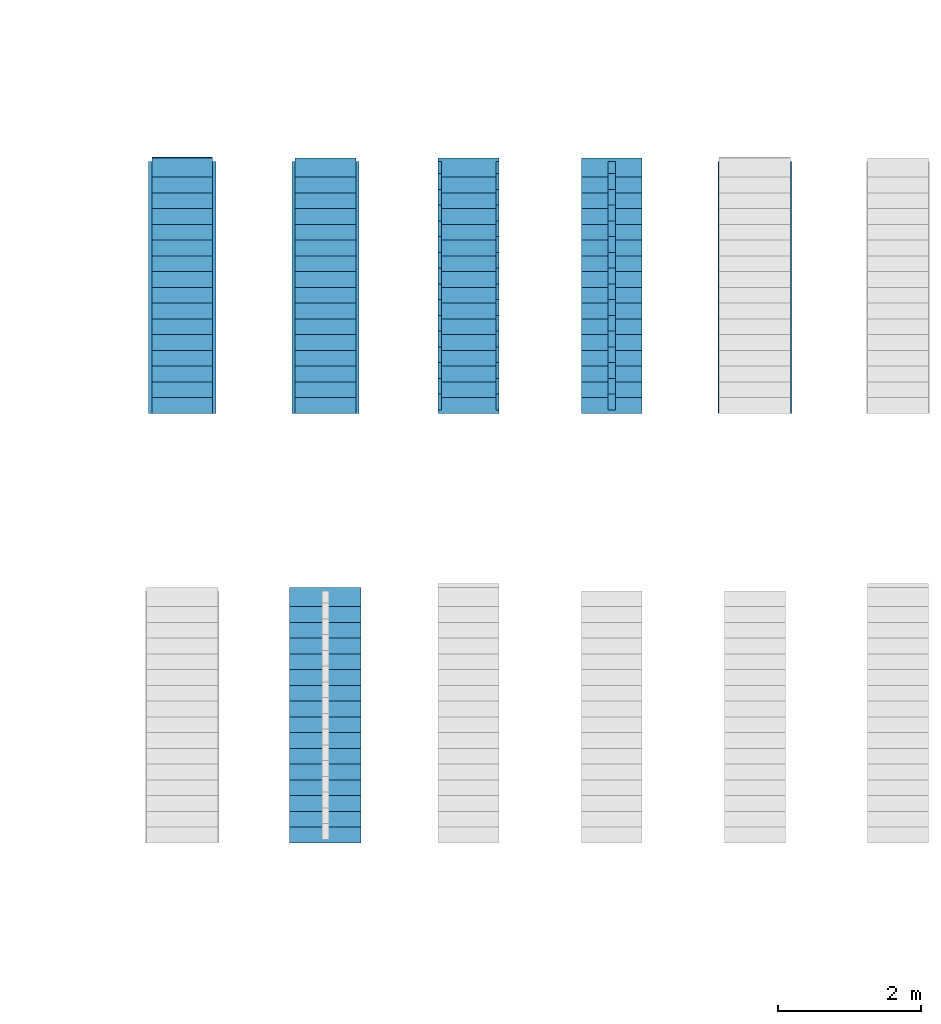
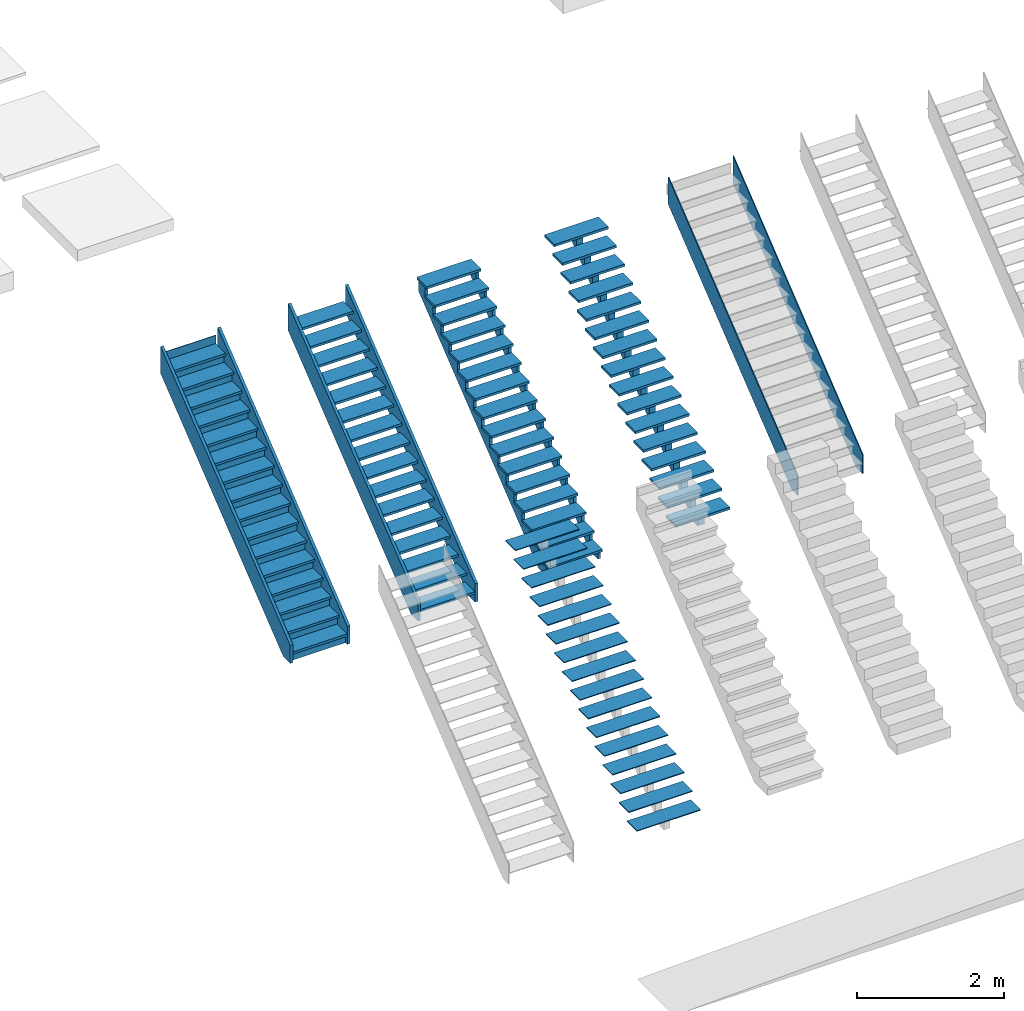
# One storey, part 4 of 11: 10 stairs, 10 elements without a shape of their own.
"""IFC2X3 building model written with IfcOpenShell, lengths in millimetres."""

from ifc_helpers import new_model, entity, si_unit, converted_unit, derived_unit, direction, frame, frame_2d, origin, origin_2d_with_axis, place, context, subcontext, project, spatial, polyline, rectangle, outline, extrude, material, element, aggregate, save


model = new_model("IFC2X3")

# Units and contexts
model_context = context("Model", 3, precision=0.01, world=origin(), true_north=direction((6.12303176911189e-17, 1.0)))
body_context = subcontext(model_context, "Body", "Model", "MODEL_VIEW")
ifc_project = project(units=[si_unit("LENGTHUNIT", "METRE", prefix="MILLI"), si_unit("AREAUNIT", "SQUARE_METRE"), si_unit("VOLUMEUNIT", "CUBIC_METRE"), converted_unit("PLANEANGLEUNIT", "DEGREE", entity("IfcRatioMeasure", 0.0174532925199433), si_unit("PLANEANGLEUNIT", "RADIAN"), dimensions=[0, 0, 0, 0, 0, 0, 0]), si_unit("MASSUNIT", "GRAM", prefix="KILO"), si_unit("TIMEUNIT", "SECOND"), si_unit("FREQUENCYUNIT", "HERTZ"), si_unit("THERMODYNAMICTEMPERATUREUNIT", "KELVIN"), derived_unit("THERMALTRANSMITTANCEUNIT", [(si_unit("MASSUNIT", "GRAM", prefix="KILO"), 1), (si_unit("THERMODYNAMICTEMPERATUREUNIT", "KELVIN"), -1), (si_unit("TIMEUNIT", "SECOND"), -3)]), derived_unit("VOLUMETRICFLOWRATEUNIT", [(si_unit("LENGTHUNIT", "METRE"), 3), (si_unit("TIMEUNIT", "SECOND"), -1)]), si_unit("ELECTRICCURRENTUNIT", "AMPERE"), si_unit("ELECTRICVOLTAGEUNIT", "VOLT"), si_unit("POWERUNIT", "WATT")], contexts=[model_context])

# Site, building, storey
site_placement = place(None, origin())
site = spatial("IfcSite", under=ifc_project, at=site_placement, Name="Surface:5707", CompositionType="ELEMENT")
building_placement = place(site_placement, origin())
building = spatial("IfcBuilding", under=site, at=building_placement, CompositionType="ELEMENT")
storey_placement = place(building_placement, origin())
storey = spatial("IfcBuildingStorey", under=building, at=storey_placement, Name="00_begane grond", CompositionType="ELEMENT", Elevation=0.0)

# Stairs
stair_1_placement = place(storey_placement, frame((17304.8089026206, -25324.6322235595, 0.0)))
stair_1 = element("IfcStair", 1, at=stair_1_placement, inside=storey, Name="Assembled Stair:Stair:68679 Stringer 1:Stair:68679 Stringer 1 : Assembled Stair:Stair:68679 Stringer 1:2460", ObjectType="Assembled Stair:Stair:68679 Stringer 1:Assembled Stair:Stair:68679 Stringer 1:2458", ShapeType="NOTDEFINED")
ifc_material_1 = material(Name="24_hout_vuren_generiek")
stair_2_placement = place(stair_1_placement, origin())
stair_2 = element("IfcStair", 2, at=stair_2_placement, material=ifc_material_1, Name="Assembled Stair:Stair:68679 Stringer 1:Stair:68679 Stringer 1 : Assembled Stair:Stair:68679 Stringer 1:2460", ObjectType="Assembled Stair:Stair:68679 Stringer 1:Assembled Stair:Stair:68679 Stringer 1:2458", ShapeType="NOTDEFINED", context=body_context, shape_type="SweptSolid", body=[
    extrude(outline(polyline([(-1741.72404107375, -163.748976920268), (2527.49764169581, -163.748976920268), (2808.24630479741, 186.251023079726), (-1704.26057487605, 186.251023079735), (-1889.75933054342, -45.0040923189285), (-1741.72404107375, -163.748976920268)])), frame((895.0, 1445.95512853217, 1217.55059934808), z_axis=(1.0, 0.0, 0.0), x_axis=(0.0, 0.780054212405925, 0.625711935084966)), (0.0, 0.0, 1.0), 45.0000000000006),
    extrude(outline(polyline([(-1741.72404107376, -163.748976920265), (2527.49764169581, -163.748976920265), (2808.24630479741, 186.251023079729), (-1704.26057487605, 186.251023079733), (-1889.75933054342, -45.0040923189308), (-1741.72404107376, -163.748976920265)])), frame((0.0, 1445.95512853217, 1217.55059934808), z_axis=(1.0, 0.0, 0.0), x_axis=(0.0, 0.780054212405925, 0.625711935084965)), (0.0, 0.0, 1.0), 45.0000000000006),
])
aggregate(stair_1, [stair_2])

stair_3_placement = place(storey_placement, frame((17349.8089026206, -25324.6322235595, 0.0)))
stair_3 = element("IfcStair", 3, at=stair_3_placement, inside=storey, Name="Assembled Stair:Stair:68679 Run 1:Stair:68679 Run 1 : Assembled Stair:Stair:68679 Run 1:2495", ObjectType="Assembled Stair:Stair:68679 Run 1:Assembled Stair:Stair:68679 Run 1:2493", ShapeType="NOTDEFINED")
stair_4_placement = place(stair_3_placement, origin())
stair_4 = element("IfcStair", 4, at=stair_4_placement, material=ifc_material_1, Name="Assembled Stair:Stair:68679 Run 1:Stair:68679 Run 1 : Assembled Stair:Stair:68679 Run 1:2495", ObjectType="Assembled Stair:Stair:68679 Run 1:Assembled Stair:Stair:68679 Run 1:2493", ShapeType="NOTDEFINED", context=body_context, shape_type="SweptSolid", body=[
    extrude(rectangle(XDim=9.99999999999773, YDim=850.0, at=frame_2d((0.0, 1.08002495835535e-12), x_axis=(1.0, 0.0))), frame((425.0, 3575.0, 2823.5294117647), z_axis=(0.0, 0.0, 1.0), x_axis=(0.0, -1.0, 0.0)), (0.0, 0.0, 1.0), 136.470588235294),
    extrude(rectangle(XDim=10.0000000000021, YDim=850.0, at=frame_2d((2.16582307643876e-12, 1.08002495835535e-12), x_axis=(1.0, 0.0))), frame((425.0, 3355.0, 2647.05882352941), z_axis=(0.0, 0.0, 1.0), x_axis=(0.0, -1.0, 0.0)), (0.0, 0.0, 1.0), 136.470588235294),
    extrude(rectangle(XDim=850.0, YDim=279.999999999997, at=frame_2d((1.08002495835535e-12, 0.0), x_axis=(1.0, 0.0))), frame((425.0, 3440.0, 2783.5294117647)), (0.0, 0.0, 1.0), 40.0000000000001),
    extrude(rectangle(XDim=9.99999999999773, YDim=850.0, at=frame_2d((0.0, 1.08002495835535e-12), x_axis=(1.0, 0.0))), frame((425.0, 3135.0, 2470.58823529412), z_axis=(0.0, 0.0, 1.0), x_axis=(0.0, -1.0, 0.0)), (0.0, 0.0, 1.0), 136.470588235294),
    extrude(rectangle(XDim=850.0, YDim=279.999999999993, at=frame_2d((1.08002495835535e-12, 2.1600499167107e-12), x_axis=(1.0, 0.0))), frame((425.0, 3220.0, 2607.05882352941)), (0.0, 0.0, 1.0), 40.0000000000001),
    extrude(rectangle(XDim=10.0000000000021, YDim=850.0, at=frame_2d((-2.16582307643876e-12, 1.08002495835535e-12), x_axis=(1.0, 0.0))), frame((425.0, 2915.0, 2294.11764705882), z_axis=(0.0, 0.0, 1.0), x_axis=(0.0, -1.0, 0.0)), (0.0, 0.0, 1.0), 136.470588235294),
    extrude(rectangle(XDim=850.0, YDim=280.000000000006, at=frame_2d((1.08002495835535e-12, 0.0), x_axis=(1.0, 0.0))), frame((425.0, 3000.0, 2430.58823529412)), (0.0, 0.0, 1.0), 39.9999999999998),
    extrude(rectangle(XDim=9.99999999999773, YDim=850.0, at=frame_2d((0.0, 1.08002495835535e-12), x_axis=(1.0, 0.0))), frame((425.0, 2695.0, 2117.64705882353), z_axis=(0.0, 0.0, 1.0), x_axis=(0.0, -1.0, 0.0)), (0.0, 0.0, 1.0), 136.470588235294),
    extrude(rectangle(XDim=850.0, YDim=280.000000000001, at=frame_2d((1.08002495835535e-12, -2.1600499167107e-12), x_axis=(1.0, 0.0))), frame((425.0, 2780.0, 2254.11764705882)), (0.0, 0.0, 1.0), 40.0000000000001),
    extrude(rectangle(XDim=10.0000000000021, YDim=850.0, at=frame_2d((2.16582307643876e-12, 1.08002495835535e-12), x_axis=(1.0, 0.0))), frame((425.0, 2475.0, 1941.17647058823), z_axis=(0.0, 0.0, 1.0), x_axis=(0.0, -1.0, 0.0)), (0.0, 0.0, 1.0), 136.470588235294),
    extrude(rectangle(XDim=850.0, YDim=280.000000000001, at=frame_2d((1.08002495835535e-12, -2.1600499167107e-12), x_axis=(1.0, 0.0))), frame((425.0, 2560.0, 2077.64705882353)), (0.0, 0.0, 1.0), 40.0000000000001),
    extrude(rectangle(XDim=10.0000000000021, YDim=850.0, at=frame_2d((2.16582307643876e-12, 1.08002495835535e-12), x_axis=(1.0, 0.0))), frame((425.0, 2255.0, 1764.70588235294), z_axis=(0.0, 0.0, 1.0), x_axis=(0.0, -1.0, 0.0)), (0.0, 0.0, 1.0), 136.470588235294),
    extrude(rectangle(XDim=850.0, YDim=280.000000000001, at=frame_2d((1.08002495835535e-12, 2.1600499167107e-12), x_axis=(1.0, 0.0))), frame((425.0, 2340.0, 1901.17647058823)), (0.0, 0.0, 1.0), 40.0000000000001),
    extrude(rectangle(XDim=9.99999999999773, YDim=850.0, at=frame_2d((0.0, 1.08002495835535e-12), x_axis=(1.0, 0.0))), frame((425.0, 2035.0, 1588.23529411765), z_axis=(0.0, 0.0, 1.0), x_axis=(0.0, -1.0, 0.0)), (0.0, 0.0, 1.0), 136.470588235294),
    extrude(rectangle(XDim=850.0, YDim=280.000000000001, at=frame_2d((1.08002495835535e-12, 2.1600499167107e-12), x_axis=(1.0, 0.0))), frame((425.0, 2120.0, 1724.70588235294)), (0.0, 0.0, 1.0), 40.0000000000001),
    extrude(rectangle(XDim=10.0000000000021, YDim=850.0, at=frame_2d((-2.16582307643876e-12, 1.08002495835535e-12), x_axis=(1.0, 0.0))), frame((425.0, 1815.0, 1411.76470588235), z_axis=(0.0, 0.0, 1.0), x_axis=(0.0, -1.0, 0.0)), (0.0, 0.0, 1.0), 136.470588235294),
    extrude(rectangle(XDim=850.0, YDim=279.999999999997, at=frame_2d((1.08002495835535e-12, 0.0), x_axis=(1.0, 0.0))), frame((425.0, 1900.0, 1548.23529411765)), (0.0, 0.0, 1.0), 40.0000000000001),
    extrude(rectangle(XDim=9.99999999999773, YDim=850.0, at=frame_2d((0.0, 1.08002495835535e-12), x_axis=(1.0, 0.0))), frame((425.0, 1595.0, 1235.29411764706), z_axis=(0.0, 0.0, 1.0), x_axis=(0.0, -1.0, 0.0)), (0.0, 0.0, 1.0), 136.470588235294),
    extrude(rectangle(XDim=850.0, YDim=280.000000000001, at=frame_2d((1.08002495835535e-12, 2.1600499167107e-12), x_axis=(1.0, 0.0))), frame((425.0, 1680.0, 1371.76470588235)), (0.0, 0.0, 1.0), 40.0000000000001),
    extrude(rectangle(XDim=10.0000000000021, YDim=850.0, at=frame_2d((2.16582307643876e-12, 1.08002495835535e-12), x_axis=(1.0, 0.0))), frame((425.0, 1375.0, 1058.82352941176), z_axis=(0.0, 0.0, 1.0), x_axis=(0.0, -1.0, 0.0)), (0.0, 0.0, 1.0), 136.470588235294),
    extrude(rectangle(XDim=850.0, YDim=279.999999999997, at=frame_2d((1.08002495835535e-12, 0.0), x_axis=(1.0, 0.0))), frame((425.0, 1460.0, 1195.29411764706)), (0.0, 0.0, 1.0), 40.0),
    extrude(rectangle(XDim=9.99999999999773, YDim=850.0, at=frame_2d((0.0, 1.08002495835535e-12), x_axis=(1.0, 0.0))), frame((425.0, 1155.0, 882.35294117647), z_axis=(0.0, 0.0, 1.0), x_axis=(0.0, -1.0, 0.0)), (0.0, 0.0, 1.0), 136.470588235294),
    extrude(rectangle(XDim=850.0, YDim=280.000000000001, at=frame_2d((1.08002495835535e-12, 2.1600499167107e-12), x_axis=(1.0, 0.0))), frame((425.0, 1240.0, 1018.82352941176)), (0.0, 0.0, 1.0), 40.0),
    extrude(rectangle(XDim=10.0000000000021, YDim=850.0, at=frame_2d((-2.16582307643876e-12, 1.08002495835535e-12), x_axis=(1.0, 0.0))), frame((425.0, 935.0, 705.882352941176), z_axis=(0.0, 0.0, 1.0), x_axis=(0.0, -1.0, 0.0)), (0.0, 0.0, 1.0), 136.470588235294),
    extrude(rectangle(XDim=850.0, YDim=279.999999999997, at=frame_2d((1.08002495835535e-12, 0.0), x_axis=(1.0, 0.0))), frame((425.0, 1020.0, 842.35294117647)), (0.0, 0.0, 1.0), 40.0),
    extrude(rectangle(XDim=9.99999999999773, YDim=850.0, at=frame_2d((0.0, 1.08002495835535e-12), x_axis=(1.0, 0.0))), frame((425.0, 715.0, 529.411764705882), z_axis=(0.0, 0.0, 1.0), x_axis=(0.0, -1.0, 0.0)), (0.0, 0.0, 1.0), 136.470588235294),
    extrude(rectangle(XDim=850.0, YDim=279.999999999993, at=frame_2d((1.08002495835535e-12, -2.1600499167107e-12), x_axis=(1.0, 0.0))), frame((425.0, 800.0, 665.882352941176)), (0.0, 0.0, 1.0), 40.0),
    extrude(rectangle(XDim=10.0000000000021, YDim=850.0, at=frame_2d((2.16582307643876e-12, 1.08002495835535e-12), x_axis=(1.0, 0.0))), frame((425.0, 495.0, 352.941176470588), z_axis=(0.0, 0.0, 1.0), x_axis=(0.0, -1.0, 0.0)), (0.0, 0.0, 1.0), 136.470588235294),
    extrude(rectangle(XDim=850.0, YDim=280.000000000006, at=frame_2d((1.08002495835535e-12, 0.0), x_axis=(1.0, 0.0))), frame((425.0, 580.0, 489.411764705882)), (0.0, 0.0, 1.0), 40.0),
    extrude(rectangle(XDim=9.99999999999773, YDim=850.0, at=frame_2d((0.0, 1.08002495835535e-12), x_axis=(1.0, 0.0))), frame((425.0, 275.0, 176.470588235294), z_axis=(0.0, 0.0, 1.0), x_axis=(0.0, -1.0, 0.0)), (0.0, 0.0, 1.0), 136.470588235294),
    extrude(rectangle(XDim=850.0, YDim=280.000000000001, at=frame_2d((1.08002495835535e-12, 2.1600499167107e-12), x_axis=(1.0, 0.0))), frame((425.0, 360.0, 312.941176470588)), (0.0, 0.0, 1.0), 40.0),
    extrude(rectangle(XDim=10.0000000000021, YDim=850.0, at=frame_2d((-2.16582307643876e-12, 1.08002495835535e-12), x_axis=(1.0, 0.0))), frame((425.0, 55.0, 0.0), z_axis=(0.0, 0.0, 1.0), x_axis=(0.0, -1.0, 0.0)), (0.0, 0.0, 1.0), 136.470588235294),
    extrude(rectangle(XDim=850.0, YDim=280.000000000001, at=frame_2d((1.08002495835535e-12, 2.1600499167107e-12), x_axis=(1.0, 0.0))), frame((425.0, 140.0, 136.470588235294)), (0.0, 0.0, 1.0), 40.0),
])
aggregate(stair_3, [stair_4])

stair_5_placement = place(storey_placement, frame((19304.8089026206, -25324.6322235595, 0.0)))
stair_5 = element("IfcStair", 5, at=stair_5_placement, inside=storey, Name="Assembled Stair:Stair:68953 Stringer 1:Stair:68953 Stringer 1 : Assembled Stair:Stair:68953 Stringer 1:2756", ObjectType="Assembled Stair:Stair:68953 Stringer 1:Assembled Stair:Stair:68953 Stringer 1:2754", ShapeType="NOTDEFINED")
stair_6_placement = place(stair_5_placement, origin())
stair_6 = element("IfcStair", 6, at=stair_6_placement, material=ifc_material_1, Name="Assembled Stair:Stair:68953 Stringer 1:Stair:68953 Stringer 1 : Assembled Stair:Stair:68953 Stringer 1:2756", ObjectType="Assembled Stair:Stair:68953 Stringer 1:Assembled Stair:Stair:68953 Stringer 1:2754", ShapeType="NOTDEFINED", context=body_context, shape_type="SweptSolid", body=[
    extrude(outline(polyline([(-1750.97592258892, -162.497553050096), (2531.06538199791, -162.497553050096), (2811.81404509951, 187.502446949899), (-1700.69283457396, 187.502446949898), (-1891.21066993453, -50.0097877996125), (-1750.97592258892, -162.497553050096)])), frame((895.0, 1443.95512853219, 1222.36343357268), z_axis=(1.0, 0.0, 0.0), x_axis=(0.0, 0.780054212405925, 0.625711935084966)), (0.0, 0.0, 1.0), 44.9999999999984),
    extrude(outline(polyline([(-1750.97592258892, -162.497553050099), (2531.0653819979, -162.497553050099), (2811.8140450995, 187.502446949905), (-1700.69283457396, 187.502446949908), (-1891.21066993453, -50.0097877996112), (-1750.97592258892, -162.497553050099)])), frame((0.0, 1443.95512853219, 1222.36343357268), z_axis=(1.0, 0.0, 0.0), x_axis=(0.0, 0.780054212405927, 0.625711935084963)), (0.0, 0.0, 1.0), 45.0000000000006),
])
aggregate(stair_5, [stair_6])

stair_7_placement = place(storey_placement, frame((19349.8089026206, -25324.6322235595, 136.470588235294)))
stair_7 = element("IfcStair", 7, at=stair_7_placement, inside=storey, Name="Assembled Stair:Stair:68953 Run 1:Stair:68953 Run 1 : Assembled Stair:Stair:68953 Run 1:2781", ObjectType="Assembled Stair:Stair:68953 Run 1:Assembled Stair:Stair:68953 Run 1:2779", ShapeType="NOTDEFINED")
stair_8_placement = place(stair_7_placement, origin())
stair_8 = element("IfcStair", 8, at=stair_8_placement, material=ifc_material_1, Name="Assembled Stair:Stair:68953 Run 1:Stair:68953 Run 1 : Assembled Stair:Stair:68953 Run 1:2781", ObjectType="Assembled Stair:Stair:68953 Run 1:Assembled Stair:Stair:68953 Run 1:2779", ShapeType="NOTDEFINED", context=body_context, shape_type="SweptSolid", body=[
    extrude(rectangle(XDim=849.999999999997, YDim=270.000000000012, at=frame_2d((0.0, -2.17426077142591e-12), x_axis=(1.0, 0.0))), frame((425.0, 3435.0, 2647.05882352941)), (0.0, 0.0, 1.0), 40.0000000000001),
    extrude(rectangle(XDim=849.999999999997, YDim=269.999999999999, at=origin_2d_with_axis()), frame((425.0, 3215.0, 2470.58823529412)), (0.0, 0.0, 1.0), 40.0000000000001),
    extrude(rectangle(XDim=849.999999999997, YDim=269.999999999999, at=origin_2d_with_axis()), frame((425.0, 2995.0, 2294.11764705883)), (0.0, 0.0, 1.0), 39.9999999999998),
    extrude(rectangle(XDim=849.999999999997, YDim=269.999999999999, at=origin_2d_with_axis()), frame((425.0, 2775.0, 2117.64705882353)), (0.0, 0.0, 1.0), 40.0000000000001),
    extrude(rectangle(XDim=849.999999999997, YDim=270.000000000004, at=frame_2d((0.0, -2.1600499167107e-12), x_axis=(1.0, 0.0))), frame((425.0, 2555.0, 1941.17647058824)), (0.0, 0.0, 1.0), 40.0000000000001),
    extrude(rectangle(XDim=849.999999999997, YDim=269.999999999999, at=origin_2d_with_axis()), frame((425.0, 2335.0, 1764.70588235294)), (0.0, 0.0, 1.0), 40.0000000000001),
    extrude(rectangle(XDim=849.999999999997, YDim=270.000000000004, at=frame_2d((0.0, -2.1600499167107e-12), x_axis=(1.0, 0.0))), frame((425.0, 2115.0, 1588.23529411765)), (0.0, 0.0, 1.0), 40.0000000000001),
    extrude(rectangle(XDim=849.999999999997, YDim=270.000000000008, at=origin_2d_with_axis()), frame((425.0, 1895.0, 1411.76470588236)), (0.0, 0.0, 1.0), 40.0000000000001),
    extrude(rectangle(XDim=849.999999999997, YDim=269.999999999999, at=origin_2d_with_axis()), frame((425.0, 1675.0, 1235.29411764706)), (0.0, 0.0, 1.0), 40.0000000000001),
    extrude(rectangle(XDim=849.999999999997, YDim=270.000000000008, at=origin_2d_with_axis()), frame((425.0, 1455.0, 1058.82352941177)), (0.0, 0.0, 1.0), 40.0),
    extrude(rectangle(XDim=849.999999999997, YDim=269.999999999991, at=origin_2d_with_axis()), frame((425.0, 1235.0, 882.352941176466)), (0.0, 0.0, 1.0), 40.0),
    extrude(rectangle(XDim=849.999999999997, YDim=270.000000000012, at=frame_2d((0.0, -2.17426077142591e-12), x_axis=(1.0, 0.0))), frame((425.0, 1015.0, 705.882352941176)), (0.0, 0.0, 1.0), 40.0),
    extrude(rectangle(XDim=849.999999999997, YDim=269.999999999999, at=origin_2d_with_axis()), frame((425.0, 795.0, 529.411764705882)), (0.0, 0.0, 1.0), 40.0),
    extrude(rectangle(XDim=849.999999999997, YDim=270.000000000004, at=frame_2d((0.0, -2.1600499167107e-12), x_axis=(1.0, 0.0))), frame((425.0, 575.0, 352.941176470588)), (0.0, 0.0, 1.0), 40.0),
    extrude(rectangle(XDim=849.999999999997, YDim=269.999999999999, at=origin_2d_with_axis()), frame((425.0, 355.0, 176.470588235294)), (0.0, 0.0, 1.0), 40.0),
    extrude(rectangle(XDim=849.999999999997, YDim=270.000000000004, at=frame_2d((0.0, 2.1600499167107e-12), x_axis=(1.0, 0.0))), frame((425.0, 135.0, 0.0)), (0.0, 0.0, 1.0), 40.0),
])
aggregate(stair_7, [stair_8])

stair_9_placement = place(storey_placement, frame((21349.8089026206, -25274.6322235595, 0.0)))
stair_9 = element("IfcStair", 9, at=stair_9_placement, inside=storey, Name="Assembled Stair:Stair:69257 Stringer 1:Stair:69257 Stringer 1 : Assembled Stair:Stair:69257 Stringer 1:2904", ObjectType="Assembled Stair:Stair:69257 Stringer 1:Assembled Stair:Stair:69257 Stringer 1:2902", ShapeType="NOTDEFINED")
stair_10_placement = place(stair_9_placement, origin())
stair_10 = element("IfcStair", 10, at=stair_10_placement, material=ifc_material_1, Name="Assembled Stair:Stair:69257 Stringer 1:Stair:69257 Stringer 1 : Assembled Stair:Stair:69257 Stringer 1:2904", ObjectType="Assembled Stair:Stair:69257 Stringer 1:Assembled Stair:Stair:69257 Stringer 1:2902", ShapeType="NOTDEFINED", context=body_context, shape_type="SweptSolid", body=[
    extrude(outline(polyline([(-1373.95151914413, -1587.15186803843), (-1373.95151914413, -1757.15186803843), (-1205.64834909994, -1757.15186803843), (1409.57789262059, 1503.16351330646), (1409.57789262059, 1712.84813196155), (1273.10730438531, 1712.84813196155), (1273.10730438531, 1492.84813196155), (1096.63671615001, 1492.84813196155), (1096.63671615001, 1272.84813196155), (920.166127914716, 1272.84813196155), (920.166127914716, 1052.84813196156), (743.695539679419, 1052.84813196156), (743.695539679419, 832.848131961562), (567.224951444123, 832.848131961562), (567.224951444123, 612.848131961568), (390.754363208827, 612.848131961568), (390.754363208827, 392.848131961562), (214.283774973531, 392.848131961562), (214.283774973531, 172.848131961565), (37.8131867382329, 172.848131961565), (37.8131867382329, -47.1518680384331), (-138.657401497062, -47.1518680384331), (-138.657401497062, -267.151868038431), (-315.127989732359, -267.151868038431), (-315.127989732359, -487.151868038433), (-491.598577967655, -487.151868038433), (-491.598577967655, -707.151868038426), (-668.069166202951, -707.151868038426), (-668.069166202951, -927.151868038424), (-844.539754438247, -927.151868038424), (-844.539754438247, -1147.15186803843), (-1021.01034267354, -1147.15186803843), (-1021.01034267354, -1367.15186803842), (-1197.48093090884, -1367.15186803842), (-1197.48093090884, -1587.15186803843), (-1373.95151914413, -1587.15186803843)])), frame((805.0, 1712.84813196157, 1409.57789262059), z_axis=(-1.0, 0.0, 0.0), x_axis=(0.0, 0.0, -1.0)), (0.0, 0.0, -1.0), 44.9999999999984),
    extrude(outline(polyline([(-1373.95151914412, -1587.15186803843), (-1373.95151914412, -1757.15186803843), (-1205.64834909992, -1757.15186803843), (1409.57789262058, 1503.16351330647), (1409.57789262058, 1712.84813196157), (1273.10730438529, 1712.84813196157), (1273.10730438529, 1492.84813196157), (1096.63671614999, 1492.84813196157), (1096.63671614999, 1272.84813196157), (920.166127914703, 1272.84813196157), (920.166127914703, 1052.84813196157), (743.695539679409, 1052.84813196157), (743.695539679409, 832.848131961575), (567.224951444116, 832.848131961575), (567.224951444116, 612.848131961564), (390.754363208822, 612.848131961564), (390.754363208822, 392.848131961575), (214.283774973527, 392.848131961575), (214.283774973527, 172.848131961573), (37.8131867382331, 172.848131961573), (37.8131867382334, -47.1518680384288), (-138.657401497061, -47.1518680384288), (-138.657401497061, -267.151868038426), (-315.127989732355, -267.151868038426), (-315.127989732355, -487.151868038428), (-491.598577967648, -487.151868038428), (-491.598577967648, -707.151868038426), (-668.069166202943, -707.151868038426), (-668.069166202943, -927.151868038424), (-844.539754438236, -927.151868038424), (-844.539754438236, -1147.15186803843), (-1021.01034267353, -1147.15186803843), (-1021.01034267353, -1367.15186803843), (-1197.48093090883, -1367.15186803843), (-1197.48093090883, -1587.15186803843), (-1373.95151914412, -1587.15186803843)])), frame((0.0, 1712.84813196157, 1409.57789262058), z_axis=(-1.0, 0.0, 0.0), x_axis=(0.0, 0.0, -1.0)), (0.0, 0.0, -1.0), 44.9999999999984),
])
aggregate(stair_9, [stair_10])

stair_11_placement = place(storey_placement, frame((21349.8089026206, -25324.6322235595, 136.470588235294)))
stair_11 = element("IfcStair", 11, at=stair_11_placement, inside=storey, Name="Assembled Stair:Stair:69257 Run 1:Stair:69257 Run 1 : Assembled Stair:Stair:69257 Run 1:2989", ObjectType="Assembled Stair:Stair:69257 Run 1:Assembled Stair:Stair:69257 Run 1:2987", ShapeType="NOTDEFINED")
stair_12_placement = place(stair_11_placement, origin())
stair_12 = element("IfcStair", 12, at=stair_12_placement, material=ifc_material_1, Name="Assembled Stair:Stair:69257 Run 1:Stair:69257 Run 1 : Assembled Stair:Stair:69257 Run 1:2989", ObjectType="Assembled Stair:Stair:69257 Run 1:Assembled Stair:Stair:69257 Run 1:2987", ShapeType="NOTDEFINED", context=body_context, shape_type="SweptSolid", body=[
    extrude(rectangle(XDim=849.999999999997, YDim=270.000000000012, at=frame_2d((0.0, -2.17426077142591e-12), x_axis=(1.0, 0.0))), frame((425.0, 3435.0, 2647.05882352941)), (0.0, 0.0, 1.0), 40.0000000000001),
    extrude(rectangle(XDim=849.999999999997, YDim=269.999999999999, at=origin_2d_with_axis()), frame((425.0, 3215.0, 2470.58823529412)), (0.0, 0.0, 1.0), 40.0000000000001),
    extrude(rectangle(XDim=849.999999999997, YDim=269.999999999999, at=origin_2d_with_axis()), frame((425.0, 2995.0, 2294.11764705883)), (0.0, 0.0, 1.0), 39.9999999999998),
    extrude(rectangle(XDim=849.999999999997, YDim=269.999999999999, at=origin_2d_with_axis()), frame((425.0, 2775.0, 2117.64705882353)), (0.0, 0.0, 1.0), 40.0000000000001),
    extrude(rectangle(XDim=849.999999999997, YDim=270.000000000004, at=frame_2d((0.0, -2.1600499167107e-12), x_axis=(1.0, 0.0))), frame((425.0, 2555.0, 1941.17647058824)), (0.0, 0.0, 1.0), 40.0000000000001),
    extrude(rectangle(XDim=849.999999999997, YDim=269.999999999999, at=origin_2d_with_axis()), frame((425.0, 2335.0, 1764.70588235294)), (0.0, 0.0, 1.0), 40.0000000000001),
    extrude(rectangle(XDim=849.999999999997, YDim=270.000000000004, at=frame_2d((0.0, -2.1600499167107e-12), x_axis=(1.0, 0.0))), frame((425.0, 2115.0, 1588.23529411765)), (0.0, 0.0, 1.0), 40.0000000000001),
    extrude(rectangle(XDim=849.999999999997, YDim=270.000000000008, at=origin_2d_with_axis()), frame((425.0, 1895.0, 1411.76470588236)), (0.0, 0.0, 1.0), 40.0000000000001),
    extrude(rectangle(XDim=849.999999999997, YDim=269.999999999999, at=origin_2d_with_axis()), frame((425.0, 1675.0, 1235.29411764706)), (0.0, 0.0, 1.0), 40.0000000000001),
    extrude(rectangle(XDim=849.999999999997, YDim=270.000000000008, at=origin_2d_with_axis()), frame((425.0, 1455.0, 1058.82352941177)), (0.0, 0.0, 1.0), 40.0),
    extrude(rectangle(XDim=849.999999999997, YDim=269.999999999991, at=origin_2d_with_axis()), frame((425.0, 1235.0, 882.352941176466)), (0.0, 0.0, 1.0), 40.0),
    extrude(rectangle(XDim=849.999999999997, YDim=270.000000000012, at=frame_2d((0.0, -2.17426077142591e-12), x_axis=(1.0, 0.0))), frame((425.0, 1015.0, 705.882352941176)), (0.0, 0.0, 1.0), 40.0),
    extrude(rectangle(XDim=849.999999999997, YDim=269.999999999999, at=origin_2d_with_axis()), frame((425.0, 795.0, 529.411764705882)), (0.0, 0.0, 1.0), 40.0),
    extrude(rectangle(XDim=849.999999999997, YDim=270.000000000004, at=frame_2d((0.0, -2.1600499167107e-12), x_axis=(1.0, 0.0))), frame((425.0, 575.0, 352.941176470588)), (0.0, 0.0, 1.0), 40.0),
    extrude(rectangle(XDim=849.999999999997, YDim=269.999999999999, at=origin_2d_with_axis()), frame((425.0, 355.0, 176.470588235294)), (0.0, 0.0, 1.0), 40.0),
    extrude(rectangle(XDim=849.999999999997, YDim=270.000000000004, at=frame_2d((0.0, 2.1600499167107e-12), x_axis=(1.0, 0.0))), frame((425.0, 135.0, 0.0)), (0.0, 0.0, 1.0), 40.0),
])
aggregate(stair_11, [stair_12])

stair_13_placement = place(storey_placement, frame((23724.8089026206, -25274.6322235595, 0.0)))
stair_13 = element("IfcStair", 13, at=stair_13_placement, inside=storey, Name="Assembled Stair:Stair:69261 Stringer 1:Stair:69261 Stringer 1 : Assembled Stair:Stair:69261 Stringer 1:3112", ObjectType="Assembled Stair:Stair:69261 Stringer 1:Assembled Stair:Stair:69261 Stringer 1:3110", ShapeType="NOTDEFINED")
stair_14_placement = place(stair_13_placement, origin())
stair_14 = element("IfcStair", 14, at=stair_14_placement, material=ifc_material_1, Name="Assembled Stair:Stair:69261 Stringer 1:Stair:69261 Stringer 1 : Assembled Stair:Stair:69261 Stringer 1:3112", ObjectType="Assembled Stair:Stair:69261 Stringer 1:Assembled Stair:Stair:69261 Stringer 1:3110", ShapeType="NOTDEFINED", context=body_context, shape_type="SweptSolid", body=[
    extrude(outline(polyline([(-1372.1201445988, -1589.43498163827), (-1372.1201445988, -1759.43498163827), (-1267.91508364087, -1759.43498163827), (1411.40926716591, 1580.78937570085), (1411.40926716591, 1710.56501836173), (1274.93867893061, 1710.56501836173), (1274.93867893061, 1490.56501836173), (1098.46809069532, 1490.56501836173), (1098.46809069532, 1270.56501836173), (921.997502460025, 1270.56501836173), (921.997502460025, 1050.56501836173), (745.526914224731, 1050.56501836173), (745.526914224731, 830.565018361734), (569.056325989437, 830.565018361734), (569.056325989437, 610.565018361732), (392.585737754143, 610.565018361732), (392.585737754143, 390.565018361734), (216.115149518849, 390.565018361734), (216.115149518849, 170.565018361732), (39.6445612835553, 170.565018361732), (39.6445612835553, -49.4349816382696), (-136.826026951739, -49.4349816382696), (-136.826026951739, -269.434981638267), (-313.296615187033, -269.434981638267), (-313.296615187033, -489.434981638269), (-489.767203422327, -489.434981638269), (-489.767203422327, -709.434981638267), (-666.237791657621, -709.434981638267), (-666.237791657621, -929.434981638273), (-842.708379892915, -929.434981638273), (-842.708379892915, -1149.43498163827), (-1019.17896812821, -1149.43498163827), (-1019.17896812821, -1369.43498163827), (-1195.6495563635, -1369.43498163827), (-1195.6495563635, -1589.43498163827), (-1372.1201445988, -1589.43498163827)])), frame((0.0, 1710.56501836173, 1411.40926716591), z_axis=(-1.0, 0.0, 0.0), x_axis=(0.0, 0.0, -1.0)), (0.0, 0.0, -1.0), 100.000000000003),
])
aggregate(stair_13, [stair_14])

stair_15_placement = place(storey_placement, frame((23349.8089026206, -25324.6322235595, 136.470588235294)))
stair_15 = element("IfcStair", 15, at=stair_15_placement, inside=storey, Name="Assembled Stair:Stair:69261 Run 1:Stair:69261 Run 1 : Assembled Stair:Stair:69261 Run 1:3157", ObjectType="Assembled Stair:Stair:69261 Run 1:Assembled Stair:Stair:69261 Run 1:3155", ShapeType="NOTDEFINED")
stair_16_placement = place(stair_15_placement, origin())
stair_16 = element("IfcStair", 16, at=stair_16_placement, material=ifc_material_1, Name="Assembled Stair:Stair:69261 Run 1:Stair:69261 Run 1 : Assembled Stair:Stair:69261 Run 1:3157", ObjectType="Assembled Stair:Stair:69261 Run 1:Assembled Stair:Stair:69261 Run 1:3155", ShapeType="NOTDEFINED", context=body_context, shape_type="SweptSolid", body=[
    extrude(rectangle(XDim=849.999999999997, YDim=270.000000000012, at=frame_2d((0.0, -2.17426077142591e-12), x_axis=(1.0, 0.0))), frame((425.0, 3435.0, 2647.05882352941)), (0.0, 0.0, 1.0), 40.0000000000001),
    extrude(rectangle(XDim=849.999999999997, YDim=269.999999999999, at=origin_2d_with_axis()), frame((425.0, 3215.0, 2470.58823529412)), (0.0, 0.0, 1.0), 40.0000000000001),
    extrude(rectangle(XDim=849.999999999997, YDim=269.999999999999, at=origin_2d_with_axis()), frame((425.0, 2995.0, 2294.11764705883)), (0.0, 0.0, 1.0), 39.9999999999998),
    extrude(rectangle(XDim=849.999999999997, YDim=269.999999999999, at=origin_2d_with_axis()), frame((425.0, 2775.0, 2117.64705882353)), (0.0, 0.0, 1.0), 40.0000000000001),
    extrude(rectangle(XDim=849.999999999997, YDim=270.000000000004, at=frame_2d((0.0, -2.1600499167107e-12), x_axis=(1.0, 0.0))), frame((425.0, 2555.0, 1941.17647058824)), (0.0, 0.0, 1.0), 40.0000000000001),
    extrude(rectangle(XDim=849.999999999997, YDim=269.999999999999, at=origin_2d_with_axis()), frame((425.0, 2335.0, 1764.70588235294)), (0.0, 0.0, 1.0), 40.0000000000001),
    extrude(rectangle(XDim=849.999999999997, YDim=269.999999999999, at=origin_2d_with_axis()), frame((425.0, 2115.0, 1588.23529411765)), (0.0, 0.0, 1.0), 40.0000000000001),
    extrude(rectangle(XDim=849.999999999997, YDim=270.000000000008, at=origin_2d_with_axis()), frame((425.0, 1895.0, 1411.76470588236)), (0.0, 0.0, 1.0), 40.0000000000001),
    extrude(rectangle(XDim=849.999999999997, YDim=269.999999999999, at=origin_2d_with_axis()), frame((425.0, 1675.0, 1235.29411764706)), (0.0, 0.0, 1.0), 40.0000000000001),
    extrude(rectangle(XDim=849.999999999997, YDim=270.000000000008, at=origin_2d_with_axis()), frame((425.0, 1455.0, 1058.82352941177)), (0.0, 0.0, 1.0), 40.0),
    extrude(rectangle(XDim=849.999999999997, YDim=269.999999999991, at=origin_2d_with_axis()), frame((425.0, 1235.0, 882.352941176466)), (0.0, 0.0, 1.0), 40.0),
    extrude(rectangle(XDim=849.999999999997, YDim=270.000000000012, at=frame_2d((0.0, -2.17426077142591e-12), x_axis=(1.0, 0.0))), frame((425.0, 1015.0, 705.882352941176)), (0.0, 0.0, 1.0), 40.0),
    extrude(rectangle(XDim=849.999999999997, YDim=269.999999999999, at=origin_2d_with_axis()), frame((425.0, 795.0, 529.411764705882)), (0.0, 0.0, 1.0), 40.0),
    extrude(rectangle(XDim=849.999999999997, YDim=270.000000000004, at=frame_2d((0.0, -2.1600499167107e-12), x_axis=(1.0, 0.0))), frame((425.0, 575.0, 352.941176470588)), (0.0, 0.0, 1.0), 40.0),
    extrude(rectangle(XDim=849.999999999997, YDim=269.999999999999, at=origin_2d_with_axis()), frame((425.0, 355.0, 176.470588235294)), (0.0, 0.0, 1.0), 40.0),
    extrude(rectangle(XDim=849.999999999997, YDim=270.000000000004, at=frame_2d((0.0, 2.1600499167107e-12), x_axis=(1.0, 0.0))), frame((425.0, 135.0, 0.0)), (0.0, 0.0, 1.0), 40.0),
])
aggregate(stair_15, [stair_16])

stair_17_placement = place(storey_placement, frame((25259.8089026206, -25324.6322235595, 0.0)))
stair_17 = element("IfcStair", 17, at=stair_17_placement, inside=storey, Name="Assembled Stair:Stair:69280 Stringer 1:Stair:69280 Stringer 1 : Assembled Stair:Stair:69280 Stringer 1:3280", ObjectType="Assembled Stair:Stair:69280 Stringer 1:Assembled Stair:Stair:69280 Stringer 1:3278", ShapeType="NOTDEFINED")
stair_18_placement = place(stair_17_placement, origin())
stair_18 = element("IfcStair", 18, at=stair_18_placement, material=ifc_material_1, Name="Assembled Stair:Stair:69280 Stringer 1:Stair:69280 Stringer 1 : Assembled Stair:Stair:69280 Stringer 1:3280", ObjectType="Assembled Stair:Stair:69280 Stringer 1:Assembled Stair:Stair:69280 Stringer 1:3278", ShapeType="NOTDEFINED", context=body_context, shape_type="SweptSolid", body=[
    extrude(outline(polyline([(-1765.93313103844, -160.474417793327), (2536.83322881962, -160.474417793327), (2817.58189192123, 189.525582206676), (-1694.92498775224, 189.525582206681), (-1893.55700195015, -58.1023288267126), (-1765.93313103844, -160.474417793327)])), frame((1015.0, 1440.72179519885, 1230.14418223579), z_axis=(1.0, 0.0, 0.0), x_axis=(0.0, 0.780054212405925, 0.625711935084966)), (0.0, 0.0, 1.0), 15.0000000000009),
    extrude(outline(polyline([(-1765.93313103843, -160.474417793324), (2536.83322881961, -160.474417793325), (2817.58189192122, 189.525582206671), (-1694.92498775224, 189.525582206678), (-1893.55700195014, -58.1023288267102), (-1765.93313103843, -160.474417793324)])), frame((0.0, 1440.72179519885, 1230.14418223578), z_axis=(1.0, 0.0, 0.0), x_axis=(0.0, 0.780054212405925, 0.625711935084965)), (0.0, 0.0, 1.0), 15.0000000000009),
])
aggregate(stair_17, [stair_18])

stair_19_placement = place(storey_placement, frame((19274.8089026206, -31324.6322235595, 161.470588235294)))
stair_19 = element("IfcStair", 19, at=stair_19_placement, inside=storey, Name="Assembled Stair:Stair:69309 Run 1:Stair:69309 Run 1 : Assembled Stair:Stair:69309 Run 1:4037", ObjectType="Assembled Stair:Stair:69309 Run 1:Assembled Stair:Stair:69309 Run 1:4035", ShapeType="NOTDEFINED")
ifc_material_2 = material(Name="24_staal_gegalvaniseerd_rooster_generiek")
stair_20_placement = place(stair_19_placement, origin())
stair_20 = element("IfcStair", 20, at=stair_20_placement, material=ifc_material_2, Name="Assembled Stair:Stair:69309 Run 1:Stair:69309 Run 1 : Assembled Stair:Stair:69309 Run 1:4037", ObjectType="Assembled Stair:Stair:69309 Run 1:Assembled Stair:Stair:69309 Run 1:4035", ShapeType="NOTDEFINED", context=body_context, shape_type="SweptSolid", body=[
    extrude(rectangle(XDim=999.999999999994, YDim=270.000000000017, at=frame_2d((-2.18847162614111e-12, 0.0), x_axis=(1.0, 0.0))), frame((500.0, 3435.0, 2647.05882352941)), (0.0, 0.0, 1.0), 14.9999999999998),
    extrude(rectangle(XDim=999.999999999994, YDim=269.999999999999, at=frame_2d((-2.18847162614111e-12, -4.32009983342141e-12), x_axis=(1.0, 0.0))), frame((500.0, 3215.0, 2470.58823529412)), (0.0, 0.0, 1.0), 14.9999999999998),
    extrude(rectangle(XDim=999.999999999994, YDim=269.999999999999, at=frame_2d((-2.18847162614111e-12, 0.0), x_axis=(1.0, 0.0))), frame((500.0, 2995.0, 2294.11764705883)), (0.0, 0.0, 1.0), 14.9999999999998),
    extrude(rectangle(XDim=999.999999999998, YDim=269.999999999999, at=origin_2d_with_axis()), frame((500.0, 2775.0, 2117.64705882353)), (0.0, 0.0, 1.0), 15.0000000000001),
    extrude(rectangle(XDim=999.999999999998, YDim=270.000000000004, at=frame_2d((0.0, -2.1600499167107e-12), x_axis=(1.0, 0.0))), frame((500.0, 2555.0, 1941.17647058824)), (0.0, 0.0, 1.0), 15.0000000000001),
    extrude(rectangle(XDim=999.999999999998, YDim=269.999999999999, at=origin_2d_with_axis()), frame((500.0, 2335.0, 1764.70588235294)), (0.0, 0.0, 1.0), 15.0000000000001),
    extrude(rectangle(XDim=999.999999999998, YDim=270.000000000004, at=frame_2d((0.0, 2.1600499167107e-12), x_axis=(1.0, 0.0))), frame((500.0, 2115.0, 1588.23529411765)), (0.0, 0.0, 1.0), 15.0000000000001),
    extrude(rectangle(XDim=999.999999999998, YDim=270.000000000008, at=origin_2d_with_axis()), frame((500.0, 1895.0, 1411.76470588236)), (0.0, 0.0, 1.0), 15.0000000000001),
    extrude(rectangle(XDim=999.999999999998, YDim=269.999999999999, at=origin_2d_with_axis()), frame((500.0, 1675.0, 1235.29411764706)), (0.0, 0.0, 1.0), 15.0000000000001),
    extrude(rectangle(XDim=999.999999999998, YDim=270.000000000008, at=origin_2d_with_axis()), frame((500.0, 1455.0, 1058.82352941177)), (0.0, 0.0, 1.0), 15.0000000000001),
    extrude(rectangle(XDim=999.999999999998, YDim=269.999999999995, at=frame_2d((0.0, -2.1600499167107e-12), x_axis=(1.0, 0.0))), frame((500.0, 1235.0, 882.352941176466)), (0.0, 0.0, 1.0), 15.0),
    extrude(rectangle(XDim=999.999999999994, YDim=270.000000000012, at=frame_2d((-2.18847162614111e-12, 2.17426077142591e-12), x_axis=(1.0, 0.0))), frame((500.0, 1015.0, 705.882352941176)), (0.0, 0.0, 1.0), 15.0),
    extrude(rectangle(XDim=999.999999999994, YDim=269.999999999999, at=frame_2d((-2.18847162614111e-12, 0.0), x_axis=(1.0, 0.0))), frame((500.0, 795.0, 529.411764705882)), (0.0, 0.0, 1.0), 15.0),
    extrude(rectangle(XDim=999.999999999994, YDim=270.000000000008, at=frame_2d((-2.18847162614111e-12, 0.0), x_axis=(1.0, 0.0))), frame((500.0, 575.0, 352.941176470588)), (0.0, 0.0, 1.0), 15.0),
    extrude(rectangle(XDim=999.999999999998, YDim=269.999999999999, at=origin_2d_with_axis()), frame((500.0, 355.0, 176.470588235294)), (0.0, 0.0, 1.0), 15.0),
    extrude(rectangle(XDim=999.999999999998, YDim=270.000000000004, at=frame_2d((0.0, 2.1600499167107e-12), x_axis=(1.0, 0.0))), frame((500.0, 135.0, 0.0)), (0.0, 0.0, 1.0), 15.0),
])
aggregate(stair_19, [stair_20])

save(model, "model.ifc")
